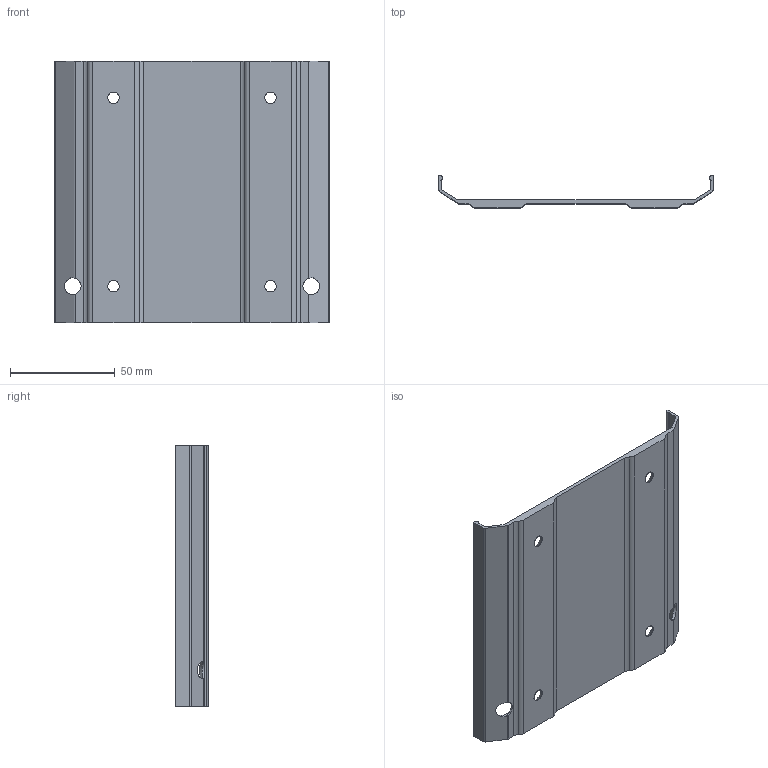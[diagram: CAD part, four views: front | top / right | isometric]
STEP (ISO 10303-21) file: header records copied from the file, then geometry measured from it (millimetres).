
FILE_DESCRIPTION(/* description */ ('STEP AP242','CAx-IF Rec.Pracs.---Representation and Presentation of Product Manufacturing Information (PMI)---4.0---2014-10-13','CAx-IF Rec.Pracs.---3D Tessellated Geometry---0.4---2014-09-14','2;1'),/* implementation_level */ '2;1');
FILE_NAME(/* name */ '6792b460be090649692e0291',/* time_stamp */ '2025-01-23T21:28:01Z',/* author */ (''),/* organization */ (''),/* preprocessor_version */ 'ST-DEVELOPER v20',/* originating_system */ 'ONSHAPE BY PTC INC, 1.192',/* authorisation */ ' ');
FILE_SCHEMA (('AP242_MANAGED_MODEL_BASED_3D_ENGINEERING_MIM_LF { 1 0 10303 442 1 1 4 }'));
Length unit declared in the file: metre
Products named in the file (1): Fury/Xtreme/Storm Mounting Bracket
Bounding box: 131.57 x 15.5 x 125 mm (x, y, z)
Volume: 44472 mm3; surface area: 38123.4 mm2
Topology: 1 solids, 1 shells, 64 faces, 198 edges, 130 vertices
Faces by surface type: cylinder 36, plane 24, cone 4
Full cylindrical faces by diameter (mm): 5.5 x4, 8 x2
Entity records: 2204 total; most frequent: CARTESIAN_POINT 423, DIRECTION 372, ORIENTED_EDGE 368, EDGE_CURVE 184, AXIS2_PLACEMENT_3D 139, VERTEX_POINT 126, LINE 94, VECTOR 94
